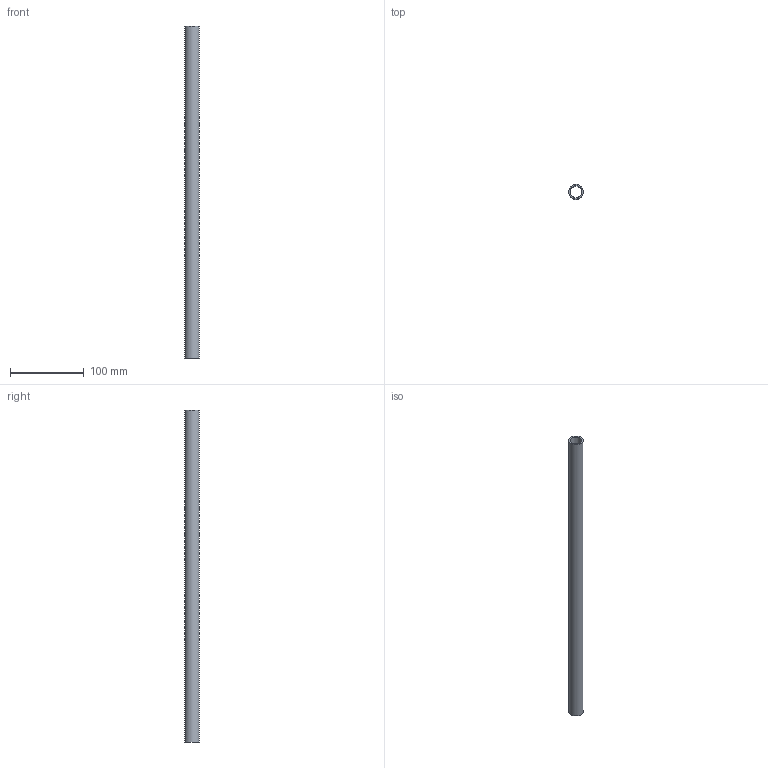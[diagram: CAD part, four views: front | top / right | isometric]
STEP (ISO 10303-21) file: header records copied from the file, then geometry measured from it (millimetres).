
FILE_DESCRIPTION( ( 'Unknown' ), '1' );
FILE_NAME( 'F:/navkite transat/construction/2016/3D ET ASSEMBLAGES/AMI/AMI 11.stp', 'Unknown', ( 'GMA' ), ( 'Unknown' ), 'XStep 1.0', 'Unknown', ' ' );
FILE_SCHEMA( ( 'automotive_design' ) );
Length unit declared in the file: millimetre
Products named in the file (1): 1
Bounding box: 20 x 20 x 450 mm (x, y, z)
Volume: 50893.8 mm3; surface area: 51120 mm2
Topology: 1 solids, 1 shells, 4 faces, 6 edges, 4 vertices
Faces by surface type: cylinder 2, plane 2
Full cylindrical faces by diameter (mm): 16 x1, 20 x1
Entity records: 136 total; most frequent: DIRECTION 18, CARTESIAN_POINT 13, AXIS2_PLACEMENT_3D 9, EDGE_LOOP 8, ORIENTED_EDGE 8, FACE_OUTER_BOUND 6, STYLED_ITEM 4, PRESENTATION_STYLE_ASSIGNMENT 4
